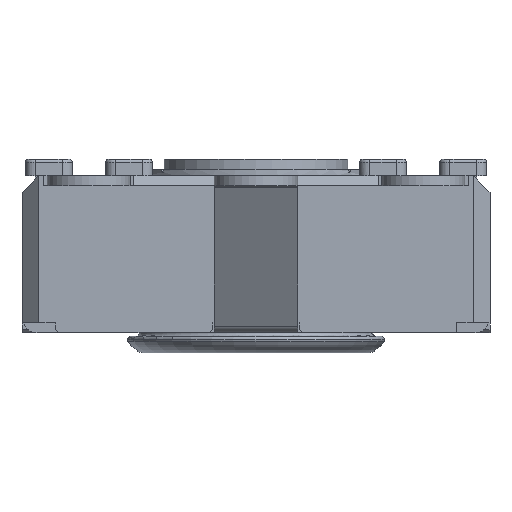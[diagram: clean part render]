
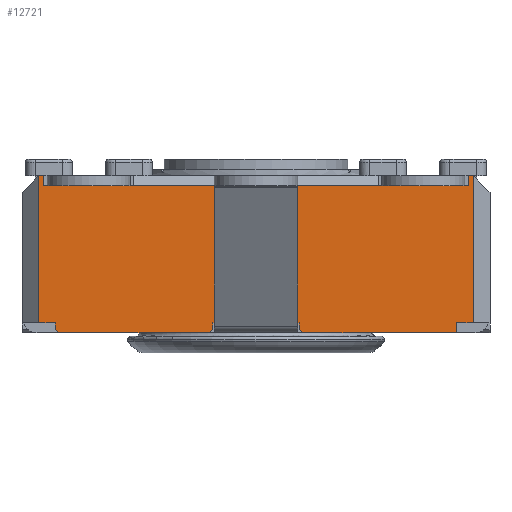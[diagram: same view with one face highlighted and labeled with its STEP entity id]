
A CAD part, front view. The second image highlights one B-rep face of the part: STEP entity #12721.
In plain terms, the highlighted planar face has unit normal (0, -1, 0).
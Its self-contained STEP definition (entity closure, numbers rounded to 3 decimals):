
#993=FACE_OUTER_BOUND('',#1666,.T.);
#1666=EDGE_LOOP('',(#9943,#9944,#9945,#9946,#9947,#9948,#9949,#9950,#9951,
#9952,#9953,#9954,#9955,#9956,#9957,#9958,#9959,#9960,#9961,#9962,#9963,
#9964,#9965,#9966,#9967,#9968,#9969));
#2080=LINE('',#17834,#3528);
#2151=LINE('',#18029,#3599);
#2152=LINE('',#18031,#3600);
#2153=LINE('',#18034,#3601);
#2158=LINE('',#18044,#3606);
#2220=LINE('',#18175,#3668);
#2227=LINE('',#18192,#3675);
#2356=LINE('',#18596,#3804);
#2371=LINE('',#18625,#3819);
#2439=LINE('',#18777,#3887);
#2447=LINE('',#18790,#3895);
#2565=LINE('',#19264,#4013);
#2772=LINE('',#19788,#4220);
#2777=LINE('',#19797,#4225);
#2780=LINE('',#19802,#4228);
#2868=LINE('',#20080,#4316);
#2876=LINE('',#20098,#4324);
#2882=LINE('',#20106,#4330);
#2883=LINE('',#20109,#4331);
#2884=LINE('',#20111,#4332);
#2885=LINE('',#20113,#4333);
#2886=LINE('',#20114,#4334);
#2887=LINE('',#20115,#4335);
#2888=LINE('',#20116,#4336);
#2889=LINE('',#20117,#4337);
#2890=LINE('',#20118,#4338);
#2891=LINE('',#20119,#4339);
#3528=VECTOR('',#14288,10.);
#3599=VECTOR('',#14449,10.);
#3600=VECTOR('',#14452,10.);
#3601=VECTOR('',#14455,10.);
#3606=VECTOR('',#14460,10.);
#3668=VECTOR('',#14572,10.);
#3675=VECTOR('',#14585,10.);
#3804=VECTOR('',#15010,10.);
#3819=VECTOR('',#15039,10.);
#3887=VECTOR('',#15189,10.);
#3895=VECTOR('',#15199,10.);
#4013=VECTOR('',#15459,10.);
#4220=VECTOR('',#15808,10.);
#4225=VECTOR('',#15813,10.);
#4228=VECTOR('',#15818,10.);
#4316=VECTOR('',#16044,10.);
#4324=VECTOR('',#16056,10.);
#4330=VECTOR('',#16066,10.);
#4331=VECTOR('',#16069,10.);
#4332=VECTOR('',#16070,10.);
#4333=VECTOR('',#16071,10.);
#4334=VECTOR('',#16072,10.);
#4335=VECTOR('',#16073,10.);
#4336=VECTOR('',#16074,10.);
#4337=VECTOR('',#16075,10.);
#4338=VECTOR('',#16076,10.);
#4339=VECTOR('',#16077,10.);
#4923=VERTEX_POINT('',#17709);
#4975=VERTEX_POINT('',#17833);
#5003=VERTEX_POINT('',#17909);
#5026=VERTEX_POINT('',#17959);
#5050=VERTEX_POINT('',#18015);
#5052=VERTEX_POINT('',#18021);
#5055=VERTEX_POINT('',#18033);
#5059=VERTEX_POINT('',#18041);
#5060=VERTEX_POINT('',#18043);
#5104=VERTEX_POINT('',#18173);
#5111=VERTEX_POINT('',#18191);
#5237=VERTEX_POINT('',#18593);
#5238=VERTEX_POINT('',#18595);
#5244=VERTEX_POINT('',#18622);
#5245=VERTEX_POINT('',#18624);
#5288=VERTEX_POINT('',#18776);
#5292=VERTEX_POINT('',#18788);
#5420=VERTEX_POINT('',#19260);
#5571=VERTEX_POINT('',#19787);
#5575=VERTEX_POINT('',#19795);
#5628=VERTEX_POINT('',#20078);
#5629=VERTEX_POINT('',#20079);
#5636=VERTEX_POINT('',#20096);
#5637=VERTEX_POINT('',#20097);
#5638=VERTEX_POINT('',#20108);
#5639=VERTEX_POINT('',#20110);
#5640=VERTEX_POINT('',#20112);
#6205=EDGE_CURVE('',#4975,#4923,#2080,.T.);
#6302=EDGE_CURVE('',#5050,#5003,#2151,.T.);
#6303=EDGE_CURVE('',#5052,#5026,#2152,.T.);
#6304=EDGE_CURVE('',#5055,#4975,#2153,.T.);
#6309=EDGE_CURVE('',#5060,#5059,#2158,.T.);
#6376=EDGE_CURVE('',#5003,#5104,#2220,.T.);
#6384=EDGE_CURVE('',#5111,#5050,#2227,.T.);
#6587=EDGE_CURVE('',#5238,#5237,#2356,.T.);
#6602=EDGE_CURVE('',#5245,#5244,#2371,.T.);
#6679=EDGE_CURVE('',#5288,#5052,#2439,.T.);
#6687=EDGE_CURVE('',#5026,#5292,#2447,.T.);
#6854=EDGE_CURVE('',#5245,#5420,#2565,.T.);
#7082=EDGE_CURVE('',#5571,#5420,#2772,.T.);
#7087=EDGE_CURVE('',#4923,#5575,#2777,.T.);
#7090=EDGE_CURVE('',#5060,#5237,#2780,.T.);
#7197=EDGE_CURVE('',#5628,#5629,#2868,.T.);
#7205=EDGE_CURVE('',#5636,#5637,#2876,.T.);
#7211=EDGE_CURVE('',#5055,#5628,#2882,.T.);
#7212=EDGE_CURVE('',#5575,#5638,#2883,.T.);
#7213=EDGE_CURVE('',#5639,#5638,#2884,.T.);
#7214=EDGE_CURVE('',#5639,#5640,#2885,.T.);
#7215=EDGE_CURVE('',#5640,#5571,#2886,.T.);
#7216=EDGE_CURVE('',#5244,#5288,#2887,.T.);
#7217=EDGE_CURVE('',#5111,#5292,#2888,.T.);
#7218=EDGE_CURVE('',#5104,#5238,#2889,.T.);
#7219=EDGE_CURVE('',#5059,#5637,#2890,.T.);
#7220=EDGE_CURVE('',#5636,#5629,#2891,.T.);
#9943=ORIENTED_EDGE('',*,*,#7197,.F.);
#9944=ORIENTED_EDGE('',*,*,#7211,.F.);
#9945=ORIENTED_EDGE('',*,*,#6304,.T.);
#9946=ORIENTED_EDGE('',*,*,#6205,.T.);
#9947=ORIENTED_EDGE('',*,*,#7087,.T.);
#9948=ORIENTED_EDGE('',*,*,#7212,.T.);
#9949=ORIENTED_EDGE('',*,*,#7213,.F.);
#9950=ORIENTED_EDGE('',*,*,#7214,.T.);
#9951=ORIENTED_EDGE('',*,*,#7215,.T.);
#9952=ORIENTED_EDGE('',*,*,#7082,.T.);
#9953=ORIENTED_EDGE('',*,*,#6854,.F.);
#9954=ORIENTED_EDGE('',*,*,#6602,.T.);
#9955=ORIENTED_EDGE('',*,*,#7216,.T.);
#9956=ORIENTED_EDGE('',*,*,#6679,.T.);
#9957=ORIENTED_EDGE('',*,*,#6303,.T.);
#9958=ORIENTED_EDGE('',*,*,#6687,.T.);
#9959=ORIENTED_EDGE('',*,*,#7217,.F.);
#9960=ORIENTED_EDGE('',*,*,#6384,.T.);
#9961=ORIENTED_EDGE('',*,*,#6302,.T.);
#9962=ORIENTED_EDGE('',*,*,#6376,.T.);
#9963=ORIENTED_EDGE('',*,*,#7218,.T.);
#9964=ORIENTED_EDGE('',*,*,#6587,.T.);
#9965=ORIENTED_EDGE('',*,*,#7090,.F.);
#9966=ORIENTED_EDGE('',*,*,#6309,.T.);
#9967=ORIENTED_EDGE('',*,*,#7219,.T.);
#9968=ORIENTED_EDGE('',*,*,#7205,.F.);
#9969=ORIENTED_EDGE('',*,*,#7220,.T.);
#11929=PLANE('',#13590);
#12721=ADVANCED_FACE('',(#993),#11929,.T.);
#13590=AXIS2_PLACEMENT_3D('',#20107,#16067,#16068);
#14288=DIRECTION('',(1.,0.,0.));
#14449=DIRECTION('',(-1.,0.,0.));
#14452=DIRECTION('',(-1.,0.,0.));
#14455=DIRECTION('',(1.,0.,0.));
#14460=DIRECTION('',(1.,0.,0.));
#14572=DIRECTION('',(-1.,0.,0.));
#14585=DIRECTION('',(-1.,0.,0.));
#15010=DIRECTION('',(-1.,0.,0.));
#15039=DIRECTION('',(-1.,0.,0.));
#15189=DIRECTION('',(-1.,0.,0.));
#15199=DIRECTION('',(-1.,0.,0.));
#15459=DIRECTION('',(0.,0.,-1.));
#15808=DIRECTION('',(1.,0.,0.));
#15813=DIRECTION('',(1.,0.,0.));
#15818=DIRECTION('',(0.,0.,1.));
#16044=DIRECTION('',(-0.707,0.,-0.707));
#16056=DIRECTION('',(-0.707,0.,0.707));
#16066=DIRECTION('',(0.,0.,-1.));
#16067=DIRECTION('center_axis',(0.,-1.,0.));
#16068=DIRECTION('ref_axis',(0.,0.,-1.));
#16069=DIRECTION('',(0.,0.,-1.));
#16070=DIRECTION('',(-0.707,0.,0.707));
#16071=DIRECTION('',(1.,0.,0.));
#16072=DIRECTION('',(0.,0.,1.));
#16073=DIRECTION('',(0.,0.,-1.));
#16074=DIRECTION('',(1.,0.,0.));
#16075=DIRECTION('',(0.,0.,1.));
#16076=DIRECTION('',(0.,0.,-1.));
#16077=DIRECTION('',(1.,0.,0.));
#17709=CARTESIAN_POINT('',(-6.217,-9.898,0.));
#17833=CARTESIAN_POINT('',(-8.717,-9.898,0.));
#17834=CARTESIAN_POINT('',(-14.467,-9.898,0.));
#17909=CARTESIAN_POINT('',(-13.717,-9.898,4.1));
#17959=CARTESIAN_POINT('',(-3.717,-9.898,4.1));
#18015=CARTESIAN_POINT('',(-11.217,-9.898,4.1));
#18021=CARTESIAN_POINT('',(-1.217,-9.898,4.1));
#18029=CARTESIAN_POINT('',(-3.944,-9.898,4.1));
#18031=CARTESIAN_POINT('',(-1.862,-9.898,4.1));
#18033=CARTESIAN_POINT('',(-8.767,-9.898,0.));
#18034=CARTESIAN_POINT('',(-14.467,-9.898,0.));
#18041=CARTESIAN_POINT('',(-13.467,-9.898,0.));
#18043=CARTESIAN_POINT('',(-13.967,-9.898,0.));
#18044=CARTESIAN_POINT('',(-7.245,-9.898,0.));
#18173=CARTESIAN_POINT('',(-13.817,-9.898,4.1));
#18175=CARTESIAN_POINT('',(-3.944,-9.898,4.1));
#18191=CARTESIAN_POINT('',(-11.117,-9.898,4.1));
#18192=CARTESIAN_POINT('',(-3.944,-9.898,4.1));
#18593=CARTESIAN_POINT('',(-13.967,-9.898,4.4));
#18595=CARTESIAN_POINT('',(-13.817,-9.898,4.4));
#18596=CARTESIAN_POINT('',(-14.467,-9.898,4.4));
#18622=CARTESIAN_POINT('',(-1.117,-9.898,4.4));
#18624=CARTESIAN_POINT('',(-0.967,-9.898,4.4));
#18625=CARTESIAN_POINT('',(-14.467,-9.898,4.4));
#18776=CARTESIAN_POINT('',(-1.117,-9.898,4.1));
#18777=CARTESIAN_POINT('',(-1.862,-9.898,4.1));
#18788=CARTESIAN_POINT('',(-3.817,-9.898,4.1));
#18790=CARTESIAN_POINT('',(-1.862,-9.898,4.1));
#19260=CARTESIAN_POINT('',(-0.967,-9.898,0.));
#19264=CARTESIAN_POINT('',(-0.967,-9.898,0.));
#19787=CARTESIAN_POINT('',(-1.467,-9.898,0.));
#19788=CARTESIAN_POINT('',(-0.646,-9.898,0.));
#19795=CARTESIAN_POINT('',(-6.167,-9.898,0.));
#19797=CARTESIAN_POINT('',(-14.467,-9.898,0.));
#19802=CARTESIAN_POINT('',(-13.967,-9.898,0.));
#20078=CARTESIAN_POINT('',(-8.767,-9.898,-0.2));
#20079=CARTESIAN_POINT('',(-8.867,-9.898,-0.3));
#20080=CARTESIAN_POINT('',(-6.667,-9.898,1.9));
#20096=CARTESIAN_POINT('',(-13.367,-9.898,-0.3));
#20097=CARTESIAN_POINT('',(-13.467,-9.898,-0.2));
#20098=CARTESIAN_POINT('',(-10.242,-9.898,-3.425));
#20106=CARTESIAN_POINT('',(-8.767,-9.898,0.));
#20107=CARTESIAN_POINT('Origin',(-0.467,-9.898,0.));
#20108=CARTESIAN_POINT('',(-6.167,-9.898,-0.2));
#20109=CARTESIAN_POINT('',(-6.167,-9.898,0.));
#20110=CARTESIAN_POINT('',(-6.067,-9.898,-0.3));
#20111=CARTESIAN_POINT('',(-4.767,-9.898,-1.6));
#20112=CARTESIAN_POINT('',(-1.467,-9.898,-0.3));
#20113=CARTESIAN_POINT('',(-0.467,-9.898,-0.3));
#20114=CARTESIAN_POINT('',(-1.467,-9.898,-0.15));
#20115=CARTESIAN_POINT('',(-1.117,-9.898,2.2));
#20116=CARTESIAN_POINT('',(-3.967,-9.898,4.1));
#20117=CARTESIAN_POINT('',(-13.817,-9.898,2.2));
#20118=CARTESIAN_POINT('',(-13.467,-9.898,-0.15));
#20119=CARTESIAN_POINT('',(-0.467,-9.898,-0.3));
